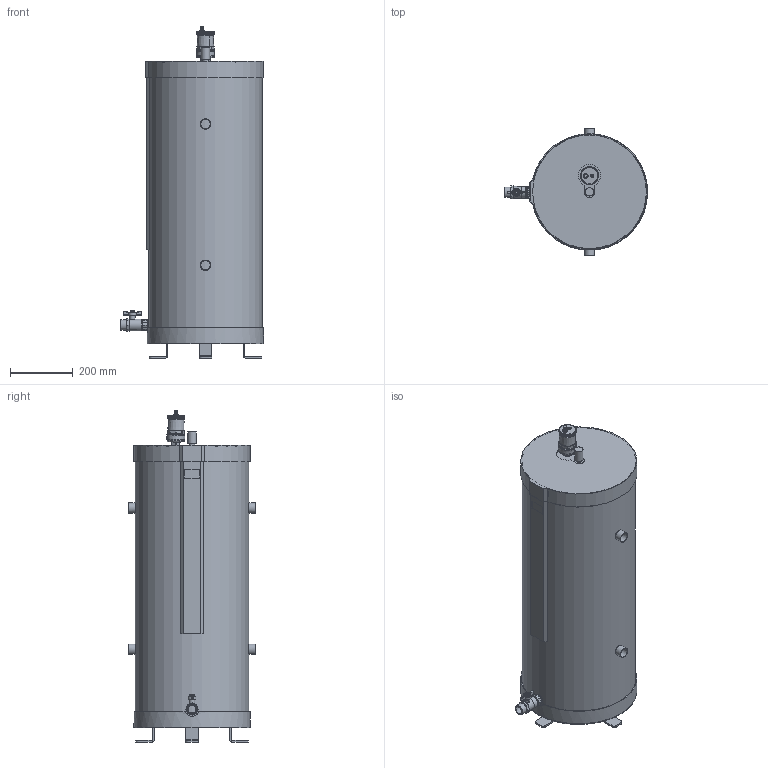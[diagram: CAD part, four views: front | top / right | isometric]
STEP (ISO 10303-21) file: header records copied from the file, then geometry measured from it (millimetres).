
FILE_DESCRIPTION(('FreeCAD Model'),'2;1');
FILE_NAME('Open CASCADE Shape Model','2023-05-15T15:43:44',(''),(''), 'Open CASCADE STEP processor 7.6','FreeCAD','Unknown');
FILE_SCHEMA(('AUTOMOTIVE_DESIGN { 1 0 10303 214 1 1 1 1 }'));
Length unit declared in the file: millimetre
Products named in the file (1): Compound001
Bounding box: 456 x 406 x 1058.05 mm (x, y, z)
Volume: 93470347.1 mm3; surface area: 2025860.1 mm2
Topology: 16 solids, 16 shells, 1305 faces, 3441 edges, 2166 vertices
Faces by surface type: cylinder 588, plane 435, bspline 117, cone 88, torus 56, sphere 21
Full cylindrical faces by diameter (mm): 6.647 x1, 8 x1, 12 x1, 15 x1, 17 x2, 25 x1, 27 x1, 30 x6, 33 x6, 37.5 x1, 272 x1, 362 x1, 366 x1, 370 x2
Entity records: 142103 total; most frequent: CARTESIAN_POINT 72908, DIRECTION 9199, ORIENTED_EDGE 6842, PCURVE 6842, DEFINITIONAL_REPRESENTATION 6842, LINE 5007, VECTOR 5007, B_SPLINE_CURVE_WITH_KNOTS 4154
